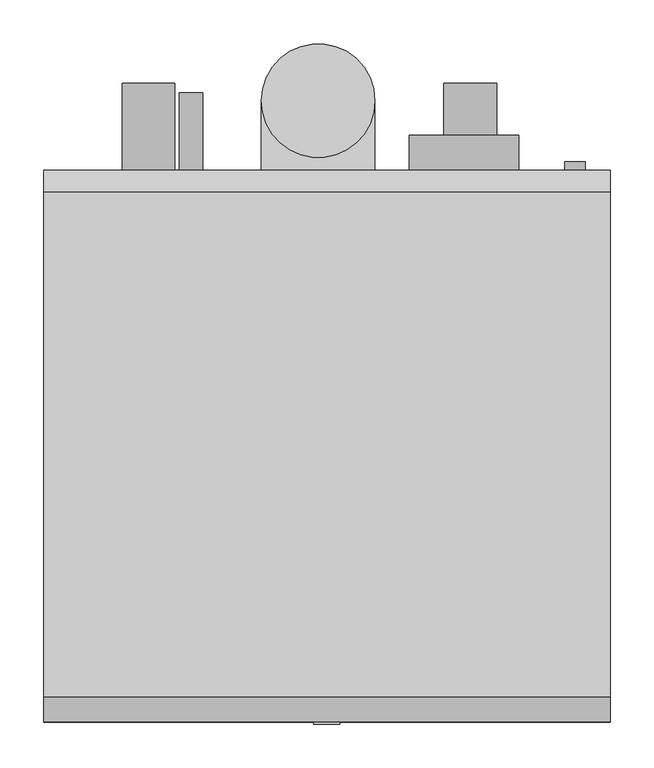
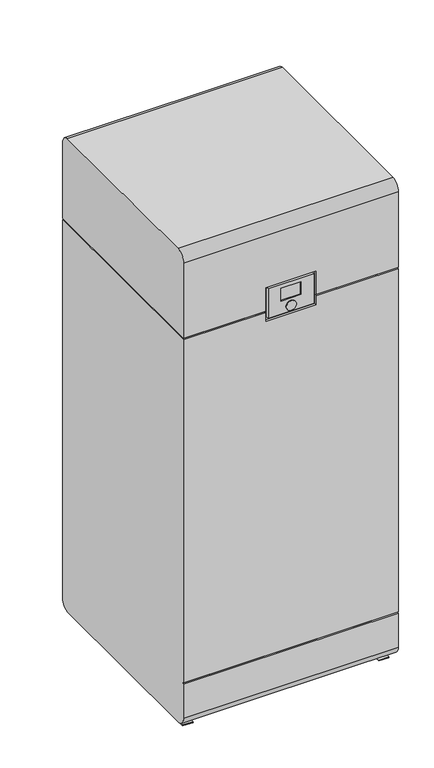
"""IFC4 building model written with IfcOpenShell, lengths in millimetres: unitary equipment geometry, AIC_Boiler_Nesta_FS_120-250 : Nesta 160 FS."""

from ifc_helpers import new_model, si_unit, point, frame, frame_2d, origin, origin_with_axes, place, context, project, spatial, polyline, circle_curve, trimmed, segment, composite_curve, outline, extrude, source, transform, mapped, element, save
from ifc_brep_helpers import plane_surface, cylinder_surface, advanced_brep


def unitary_equipment_f8a501f3(model_context):
    return source(origin(), model_context, "Body", "SolidModel", [
        extrude(outline(composite_curve([segment(trimmed(circle_curve(frame_2d((600.0, 284.0)), 11.6), [point((600.0, 295.6))], [point((600.0, 272.4))], False, "CARTESIAN"), True, "CONTINUOUS"), segment(trimmed(circle_curve(frame_2d((600.0, 284.0)), 11.6), [point((600.0, 272.4))], [point((600.0, 295.6))], False, "CARTESIAN"), True, "CONTINUOUS")], self_intersect=False)), frame((0.0, 315.5, 0.0), z_axis=(0.0, 1.0, 0.0), x_axis=(0.0, 0.0, 1.0)), (0.0, 0.0, 1.0), 10.0),
        extrude(outline(composite_curve([segment(trimmed(circle_curve(frame_2d((-10.0, 395.5)), 65.0), [point((-75.0, 395.5))], [point((55.0, 395.5))], False, "CARTESIAN"), True, "CONTINUOUS"), segment(trimmed(circle_curve(frame_2d((-10.0, 395.5)), 65.0), [point((55.0, 395.5))], [point((-75.0, 395.5))], False, "CARTESIAN"), True, "CONTINUOUS")], self_intersect=False)), frame((0.0, 0.0, 302.0), z_axis=(0.0, 0.0, 1.0), x_axis=(1.0, 0.0, 0.0)), (0.0, 0.0, 1.0), 98.0),
        extrude(outline(composite_curve([segment(polyline([(-75.0, 315.5), (-75.0, 395.5)]), True, "CONTINUOUS"), segment(trimmed(circle_curve(frame_2d((-10.0, 395.5)), 65.0), [point((-75.0, 395.5))], [point((55.0, 395.5))], False, "CARTESIAN"), True, "CONTINUOUS"), segment(polyline([(55.0, 395.5), (55.0, 315.5), (-75.0, 315.5)]), True, "CONTINUOUS")], self_intersect=False)), frame((0.0, 0.0, 232.0), z_axis=(0.0, 0.0, 1.0), x_axis=(1.0, 0.0, 0.0)), (0.0, 0.0, 1.0), 70.0),
        extrude(outline(composite_curve([segment(trimmed(circle_curve(frame_2d((141.0, 196.0)), 12.5), [point((141.0, 208.5))], [point((141.0, 183.5))], False, "CARTESIAN"), True, "CONTINUOUS"), segment(trimmed(circle_curve(frame_2d((141.0, 196.0)), 12.5), [point((141.0, 183.5))], [point((141.0, 208.5))], False, "CARTESIAN"), True, "CONTINUOUS")], self_intersect=False)), frame((0.0, 315.5, 0.0), z_axis=(0.0, 1.0, 0.0), x_axis=(0.0, 0.0, 1.0)), (0.0, 0.0, 1.0), 13.0),
        extrude(outline(composite_curve([segment(trimmed(circle_curve(frame_2d((354.0, 164.0)), 30.15), [point((354.0, 194.15))], [point((354.0, 133.85))], False, "CARTESIAN"), True, "CONTINUOUS"), segment(trimmed(circle_curve(frame_2d((354.0, 164.0)), 30.15), [point((354.0, 133.85))], [point((354.0, 194.15))], False, "CARTESIAN"), True, "CONTINUOUS")], self_intersect=False)), frame((0.0, 315.5, 0.0), z_axis=(0.0, 1.0, 0.0), x_axis=(0.0, 0.0, 1.0)), (0.0, 0.0, 1.0), 100.0),
        extrude(outline(composite_curve([segment(trimmed(circle_curve(frame_2d((1098.0, -204.0)), 30.15), [point((1098.0, -173.85))], [point((1098.0, -234.15))], False, "CARTESIAN"), True, "CONTINUOUS"), segment(trimmed(circle_curve(frame_2d((1098.0, -204.0)), 30.15), [point((1098.0, -234.15))], [point((1098.0, -173.85))], False, "CARTESIAN"), True, "CONTINUOUS")], self_intersect=False)), frame((0.0, 315.5, 0.0), z_axis=(0.0, 1.0, 0.0), x_axis=(0.0, 0.0, 1.0)), (0.0, 0.0, 1.0), 100.0),
        extrude(outline(composite_curve([segment(trimmed(circle_curve(frame_2d((1320.9643556, -155.193117)), 13.45), [point((1320.9643556, -141.743117))], [point((1320.9643556, -168.643117))], False, "CARTESIAN"), True, "CONTINUOUS"), segment(trimmed(circle_curve(frame_2d((1320.9643556, -155.193117)), 13.45), [point((1320.9643556, -168.643117))], [point((1320.9643556, -141.743117))], False, "CARTESIAN"), True, "CONTINUOUS")], self_intersect=False)), frame((0.0, 315.5, 0.0), z_axis=(0.0, 1.0, 0.0), x_axis=(0.0, 0.0, 1.0)), (0.0, 0.0, 1.0), 89.0),
        extrude(outline(composite_curve([segment(trimmed(circle_curve(frame_2d((1324.0, 157.0)), 62.5), [point((1324.0, 219.5))], [point((1324.0, 94.5))], False, "CARTESIAN"), True, "CONTINUOUS"), segment(trimmed(circle_curve(frame_2d((1324.0, 157.0)), 62.5), [point((1324.0, 94.5))], [point((1324.0, 219.5))], False, "CARTESIAN"), True, "CONTINUOUS")], self_intersect=False)), frame((0.0, 315.5, 0.0), z_axis=(0.0, 1.0, 0.0), x_axis=(0.0, 0.0, 1.0)), (0.0, 0.0, 1.0), 40.0),
        extrude(outline(polyline([(-0.574259, 15.3863839), (16.0151184, 21.4244235), (16.0151184, -21.4244235), (-0.574259, -15.3863839), (-0.574259, 15.3863839)])), frame((0.0, -239.0, 0.0), z_axis=(0.0, 1.0, 0.0), x_axis=(0.0, 0.0, 1.0)), (0.0, 0.0, 1.0), 478.0),
        extrude(outline(polyline([(-280.0, 239.0), (-280.0, -239.0), (-311.0, -239.0), (-311.0, 239.0), (-280.0, 239.0)])), frame((0.0, 0.0, 3.0), z_axis=(0.0, 0.0, 1.0), x_axis=(1.0, 0.0, 0.0)), (0.0, 0.0, 1.0), 13.0),
        extrude(outline(polyline([(280.0, 239.0), (311.0, 239.0), (311.0, -239.0), (280.0, -239.0), (280.0, 239.0)])), frame((0.0, 0.0, 3.0), z_axis=(0.0, 0.0, 1.0), x_axis=(1.0, 0.0, 0.0)), (0.0, 0.0, 1.0), 13.0),
        extrude(outline(polyline([(-280.0, 280.0), (-280.0, -288.758383), (-311.0, -288.758383), (-311.0, 280.0), (-280.0, 280.0)])), origin_with_axes(), (0.0, 0.0, 1.0), 3.0),
        extrude(outline(polyline([(280.0, 280.0), (311.0, 280.0), (311.0, -288.758383), (280.0, -288.758383), (280.0, 280.0)])), origin_with_axes(), (0.0, 0.0, 1.0), 3.0),
        extrude(outline(composite_curve([segment(trimmed(circle_curve(frame_2d((1248.0, 0.0)), 15.0), [point((1248.0, -15.0))], [point((1248.0, 15.0))], False, "CARTESIAN"), True, "CONTINUOUS"), segment(trimmed(circle_curve(frame_2d((1248.0, 0.0)), 15.0), [point((1248.0, 15.0))], [point((1248.0, -15.0))], False, "CARTESIAN"), True, "CONTINUOUS")], self_intersect=False)), frame((0.0, -318.0, 0.0), z_axis=(0.0, 1.0, 0.0), x_axis=(0.0, 0.0, 1.0)), (0.0, 0.0, 1.0), 2.5),
        advanced_brep(
        [(-324.0, 290.5, 1524.0), (-324.0, -286.5, 1524.0), (324.0, -286.5, 1524.0), (324.0, 290.5, 1524.0), (324.0, 286.5, 16.0), (324.0, -286.5, 16.0), (-324.0, -286.5, 16.0), (-324.0, 286.5, 16.0), (-324.0, 315.5, 1495.2771868), (-324.0, 315.5, 1255.0), (-324.0, -315.5, 1255.0), (-324.0, -315.5, 1495.0), (-324.0, -315.5, 45.0), (-324.0, -315.5, 153.0), (-324.0, -310.0, 153.0), (-324.0, -310.0, 158.0), (-324.0, -315.5, 158.0), (-324.0, -315.5, 1250.0), (-324.0, 315.5, 1250.0), (-324.0, 315.5, 45.0), (324.0, -315.5, 45.0), (324.0, -315.5, 153.0), (324.0, -315.5, 1495.0), (-77.0, -315.5, 1255.0), (-77.0, -315.5, 1330.0), (77.0, -315.5, 1330.0), (77.0, -315.5, 1255.0), (324.0, -315.5, 1255.0), (-77.0, -315.5, 1250.0), (324.0, -315.5, 158.0), (324.0, -315.5, 1250.0), (77.0, -315.5, 1250.0), (77.0, -315.5, 1221.0), (-77.0, -315.5, 1221.0), (70.0, -315.5, 1229.0), (70.0, -315.5, 1323.0), (-68.2140255, -315.5, 1323.0), (-68.2140255, -315.5, 1229.0), (-30.0, -315.5, 1312.0), (30.0, -315.5, 1312.0), (30.0, -315.5, 1271.0), (-30.0, -315.5, 1271.0), (324.0, 315.5, 1255.0), (324.0, 315.5, 1495.2771868), (324.0, 315.5, 45.0), (324.0, 315.5, 1250.0), (324.0, -310.0, 158.0), (324.0, -310.0, 153.0), (-319.0, 315.5, 1250.0), (-319.0, 315.5, 1255.0), (319.0, 315.5, 1255.0), (319.0, 315.5, 1250.0), (-77.0, -310.0, 1255.0), (-319.0, -310.0, 1255.0), (-319.0, -310.0, 1250.0), (-77.0, -310.0, 1250.0), (319.0, -310.0, 1255.0), (77.0, -310.0, 1255.0), (319.0, -310.0, 1250.0), (77.0, -310.0, 1250.0), (30.0, -312.454303, 1312.0), (-30.0, -312.454303, 1312.0), (-30.0, -312.454303, 1271.0), (30.0, -312.454303, 1271.0), (77.0, -307.0, 1330.0), (-77.0, -307.0, 1330.0), (-77.0, -307.0, 1221.0), (77.0, -307.0, 1221.0), (70.0, -307.0, 1323.0), (70.0, -307.0, 1229.0), (-68.2140255, -307.0, 1229.0), (-68.2140255, -307.0, 1323.0)],
        [
            (0, 1),
            (1, 2),
            (2, 3),
            (3, 0),
            (4, 5),
            (5, 6),
            (6, 7),
            (7, 4),
            (0, 8, circle_curve(frame((-324.0, 286.5, 1495.2771868), z_axis=(-1.0, 0.0, 0.0), x_axis=(0.0, 1.0, 0.0)), 29.0)),
            (8, 9),
            (9, 10),
            (10, 11),
            (11, 1, circle_curve(frame((-324.0, -286.5, 1495.0), z_axis=(-1.0, 0.0, 0.0), x_axis=(0.0, 1.0, 0.0)), 29.0)),
            (6, 12, circle_curve(frame((-324.0, -286.5, 45.0), z_axis=(-1.0, 0.0, 0.0), x_axis=(0.0, 1.0, 0.0)), 29.0)),
            (12, 13),
            (13, 14),
            (14, 15),
            (15, 16),
            (16, 17),
            (17, 18),
            (18, 19),
            (19, 7, circle_curve(frame((-324.0, 286.5, 45.0), z_axis=(-1.0, 0.0, 0.0), x_axis=(0.0, 1.0, 0.0)), 29.0)),
            (12, 20),
            (20, 21),
            (21, 13),
            (22, 11),
            (10, 23),
            (23, 24),
            (24, 25),
            (25, 26),
            (26, 27),
            (27, 22),
            (28, 17),
            (16, 29),
            (29, 30),
            (30, 31),
            (31, 32),
            (32, 33),
            (33, 28),
            (34, 35),
            (35, 36),
            (36, 37),
            (37, 34),
            (38, 39),
            (39, 40),
            (40, 41),
            (41, 38),
            (2, 22, circle_curve(frame((324.0, -286.5, 1495.0), z_axis=(1.0, 0.0, 0.0), x_axis=(0.0, 1.0, 0.0)), 29.0)),
            (27, 42),
            (42, 43),
            (43, 3, circle_curve(frame((324.0, 286.5, 1495.2771868), z_axis=(1.0, 0.0, 0.0), x_axis=(0.0, 1.0, 0.0)), 29.0)),
            (4, 44, circle_curve(frame((324.0, 286.5, 45.0), z_axis=(1.0, 0.0, 0.0), x_axis=(0.0, 1.0, 0.0)), 29.0)),
            (44, 45),
            (45, 30),
            (29, 46),
            (46, 47),
            (47, 21),
            (20, 5, circle_curve(frame((324.0, -286.5, 45.0), z_axis=(1.0, 0.0, 0.0), x_axis=(0.0, 1.0, 0.0)), 29.0)),
            (44, 19),
            (18, 48),
            (48, 49),
            (49, 9),
            (8, 43),
            (42, 50),
            (50, 51),
            (51, 45),
            (52, 53),
            (53, 54),
            (54, 55),
            (55, 52),
            (49, 53),
            (52, 23),
            (56, 50),
            (26, 57),
            (57, 56),
            (28, 55),
            (54, 48),
            (51, 58),
            (58, 59),
            (59, 31),
            (56, 58),
            (46, 15),
            (14, 47),
            (60, 61),
            (61, 62),
            (62, 63),
            (63, 60),
            (60, 39),
            (38, 61),
            (41, 62),
            (40, 63),
            (64, 65),
            (65, 66),
            (66, 67),
            (67, 64),
            (68, 69),
            (69, 70),
            (70, 71),
            (71, 68),
            (64, 25),
            (24, 65),
            (33, 66),
            (32, 67),
            (59, 57),
            (68, 35),
            (34, 69),
            (37, 70),
            (36, 71),
        ],
        [
            plane_surface(frame((-324.0, 315.5, 1524.0), z_axis=(0.0, 0.0, 1.0), x_axis=(0.0, -1.0, 0.0))),
            plane_surface(frame((-324.0, 315.5, 16.0), z_axis=(0.0, 0.0, -1.0), x_axis=(0.0, 1.0, 0.0))),
            plane_surface(frame((-324.0, 315.5, 1524.0), z_axis=(-1.0, 0.0, 0.0), x_axis=(0.0, 0.0, -1.0))),
            plane_surface(frame((-324.0, -315.5, 1524.0), z_axis=(0.0, -1.0, 0.0), x_axis=(0.0, 0.0, -1.0))),
            plane_surface(frame((324.0, -315.5, 1524.0), z_axis=(1.0, 0.0, 0.0), x_axis=(0.0, 0.0, -1.0))),
            plane_surface(frame((324.0, 315.5, 1524.0), z_axis=(0.0, 1.0, 0.0), x_axis=(0.0, 0.0, -1.0))),
            cylinder_surface(frame((-324.0, -286.5, 45.0), z_axis=(-1.0, 0.0, 0.0), x_axis=(0.0, 1.0, 0.0)), 29.0),
            cylinder_surface(frame((0.0, 286.5, 45.0), z_axis=(-1.0, 0.0, 0.0), x_axis=(0.0, 1.0, 0.0)), 29.0),
            cylinder_surface(frame((0.0, -286.5, 1495.0), z_axis=(-1.0, 0.0, 0.0), x_axis=(0.0, 1.0, 0.0)), 29.0),
            cylinder_surface(frame((0.0, 286.5, 1495.2771868), z_axis=(-1.0, 0.0, 0.0), x_axis=(0.0, 1.0, 0.0)), 29.0),
            plane_surface(frame((-324.0, -310.0, 1255.0), z_axis=(0.0, -1.0, 0.0), x_axis=(1.0, 0.0, 0.0))),
            plane_surface(frame((-77.0, -315.5, 1255.0), z_axis=(0.0, 0.0, -1.0), x_axis=(0.0, 1.0, 0.0))),
            plane_surface(frame((-324.0, -315.5, 1250.0), z_axis=(0.0, 0.0, 1.0), x_axis=(0.0, 1.0, 0.0))),
            plane_surface(frame((-319.0, -310.0, 1255.0), z_axis=(-1.0, 0.0, 0.0), x_axis=(0.0, 0.0, -1.0))),
            plane_surface(frame((319.0, 315.5, 1255.0), z_axis=(1.0, 0.0, 0.0), x_axis=(0.0, 0.0, -1.0))),
            plane_surface(frame((-324.0, -310.0, 158.0), z_axis=(0.0, -1.0, 0.0), x_axis=(1.0, 0.0, 0.0))),
            plane_surface(frame((324.0, -315.5, 158.0), z_axis=(0.0, 0.0, -1.0), x_axis=(0.0, 1.0, 0.0))),
            plane_surface(frame((-324.0, -315.5, 153.0), z_axis=(0.0, 0.0, 1.0), x_axis=(0.0, 1.0, 0.0))),
            plane_surface(frame((-30.0, -312.454303, 1312.0), z_axis=(0.0, -1.0, 0.0), x_axis=(1.0, 0.0, 0.0))),
            plane_surface(frame((30.0, -315.5, 1312.0), z_axis=(0.0, 0.0, -1.0), x_axis=(0.0, 1.0, 0.0))),
            plane_surface(frame((-30.0, -315.5, 1312.0), z_axis=(1.0, 0.0, 0.0), x_axis=(0.0, 1.0, 0.0))),
            plane_surface(frame((-30.0, -315.5, 1271.0), z_axis=(0.0, 0.0, 1.0), x_axis=(0.0, 1.0, 0.0))),
            plane_surface(frame((30.0, -315.5, 1271.0), z_axis=(-1.0, 0.0, 0.0), x_axis=(0.0, 1.0, 0.0))),
            plane_surface(frame((-77.0, -307.0, 1330.0), z_axis=(0.0, -1.0, 0.0), x_axis=(1.0, 0.0, 0.0))),
            plane_surface(frame((77.0, -320.8955874, 1330.0), z_axis=(0.0, 0.0, -1.0), x_axis=(0.0, 1.0, 0.0))),
            plane_surface(frame((-77.0, -320.8955874, 1330.0), z_axis=(1.0, 0.0, 0.0), x_axis=(0.0, 1.0, 0.0))),
            plane_surface(frame((-77.0, -320.8955874, 1221.0), z_axis=(0.0, 0.0, 1.0), x_axis=(0.0, 1.0, 0.0))),
            plane_surface(frame((77.0, -320.8955874, 1221.0), z_axis=(-1.0, 0.0, 0.0), x_axis=(0.0, 1.0, 0.0))),
            plane_surface(frame((70.0, -320.8955874, 1323.0), z_axis=(1.0, 0.0, 0.0), x_axis=(0.0, 1.0, 0.0))),
            plane_surface(frame((70.0, -320.8955874, 1229.0), z_axis=(0.0, 0.0, -1.0), x_axis=(0.0, 1.0, 0.0))),
            plane_surface(frame((-68.2140255, -320.8955874, 1229.0), z_axis=(-1.0, 0.0, 0.0), x_axis=(0.0, 1.0, 0.0))),
            plane_surface(frame((-68.2140255, -320.8955874, 1323.0), z_axis=(0.0, 0.0, 1.0), x_axis=(0.0, 1.0, 0.0))),
            plane_surface(frame((77.0, -310.0, 1255.0), z_axis=(0.0, -1.0, 0.0), x_axis=(0.0, 0.0, 1.0))),
        ],
        [
            (0, [[1, 2, 3, 4]]),
            (1, [[5, 6, 7, 8]]),
            (2, [[-1, 9, 10, 11, 12, 13]]),
            (2, [[-7, 14, 15, 16, 17, 18, 19, 20, 21, 22]]),
            (3, [[23, 24, 25, -15]]),
            (3, [[26, -12, 27, 28, 29, 30, 31, 32]]),
            (3, [[33, -19, 34, 35, 36, 37, 38, 39]]),
            (3, [[40, 41, 42, 43], [44, 45, 46, 47]]),
            (4, [[-3, 48, -32, 49, 50, 51]]),
            (4, [[-5, 52, 53, 54, -35, 55, 56, 57, -24, 58]]),
            (5, [[59, -21, 60, 61, 62, -10, 63, -50, 64, 65, 66, -53]]),
            (6, [[-6, -58, -23, -14]]),
            (7, [[-8, -22, -59, -52]]),
            (8, [[-2, -13, -26, -48]]),
            (9, [[-4, -51, -63, -9]]),
            (10, [[67, 68, 69, 70]]),
            (11, [[-27, -11, -62, 71, -67, 72]]),
            (11, [[73, -64, -49, -31, 74, 75]]),
            (12, [[-33, 76, -69, 77, -60, -20]]),
            (12, [[78, 79, 80, -36, -54, -66]]),
            (13, [[-71, -61, -77, -68]]),
            (14, [[-73, 81, -78, -65]]),
            (15, [[82, -17, 83, -56]]),
            (16, [[-82, -55, -34, -18]]),
            (17, [[-83, -16, -25, -57]]),
            (18, [[84, 85, 86, 87]]),
            (19, [[-84, 88, -44, 89]]),
            (20, [[-85, -89, -47, 90]]),
            (21, [[-86, -90, -46, 91]]),
            (22, [[-87, -91, -45, -88]]),
            (23, [[92, 93, 94, 95], [96, 97, 98, 99]]),
            (24, [[-92, 100, -29, 101]]),
            (25, [[-93, -101, -28, -72, -70, -76, -39, 102]]),
            (26, [[-94, -102, -38, 103]]),
            (27, [[-95, -103, -37, -80, 104, -74, -30, -100]]),
            (28, [[-96, 105, -40, 106]]),
            (29, [[-97, -106, -43, 107]]),
            (30, [[-98, -107, -42, 108]]),
            (31, [[-99, -108, -41, -105]]),
            (32, [[-75, -104, -79, -81]]),
        ],
    ),
    ])


if __name__ == "__main__":
    model = new_model("IFC4")
    model_context = context("Model", 3, world=origin())
    ifc_project = project(units=[si_unit("LENGTHUNIT", "METRE", prefix="MILLI")], contexts=[model_context])
    site = spatial("IfcSite", under=ifc_project)
    building = spatial("IfcBuilding", under=site)
    placement = place(None, origin())
    unitary_equipment_shape = unitary_equipment_f8a501f3(model_context)
    element("IfcUnitaryEquipment", 1, ObjectType="AIC_Boiler_Nesta_FS_120-250 : Nesta 160 FS", at=placement, inside=building, context=model_context, shape_type="MappedRepresentation", body=[
        mapped(unitary_equipment_shape, transform((0.0, 0.0, 0.0), x_axis=(1.0, 0.0, 0.0), y_axis=(0.0, 1.0, 0.0), z_axis=(0.0, 0.0, 1.0))),
    ])
    save(model, "model.ifc")
